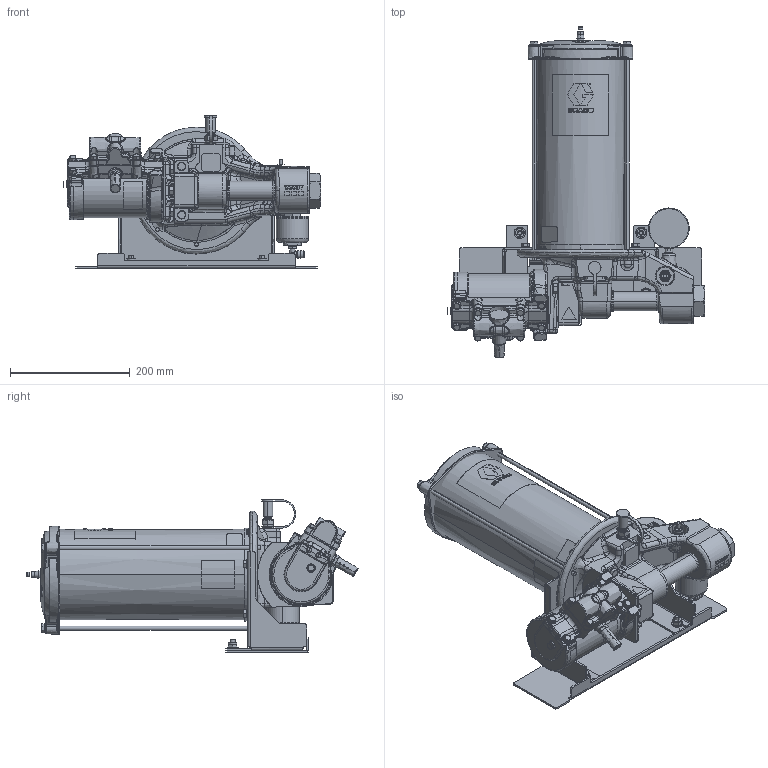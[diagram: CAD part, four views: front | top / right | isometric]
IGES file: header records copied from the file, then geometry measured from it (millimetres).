
Start section:  PTC IGES file: 17p750-en-n.igs
Global section: file name: 17p750-en-n.igs; native system: Creo Parametric by PTC Inc.; preprocessor: 2021072; author: qtmwp1; organization: Unknown; date: 20220214.102957; units: inch
Bounding box: 430.15 x 555.53 x 255.46 mm (x, y, z)
Surface area: 849010.5 mm2 (no closed solid volume)
Topology: 0 solids, 0 shells, 1839 faces, 9684 edges, 9673 vertices
Faces by surface type: bspline 980, revolution 859
